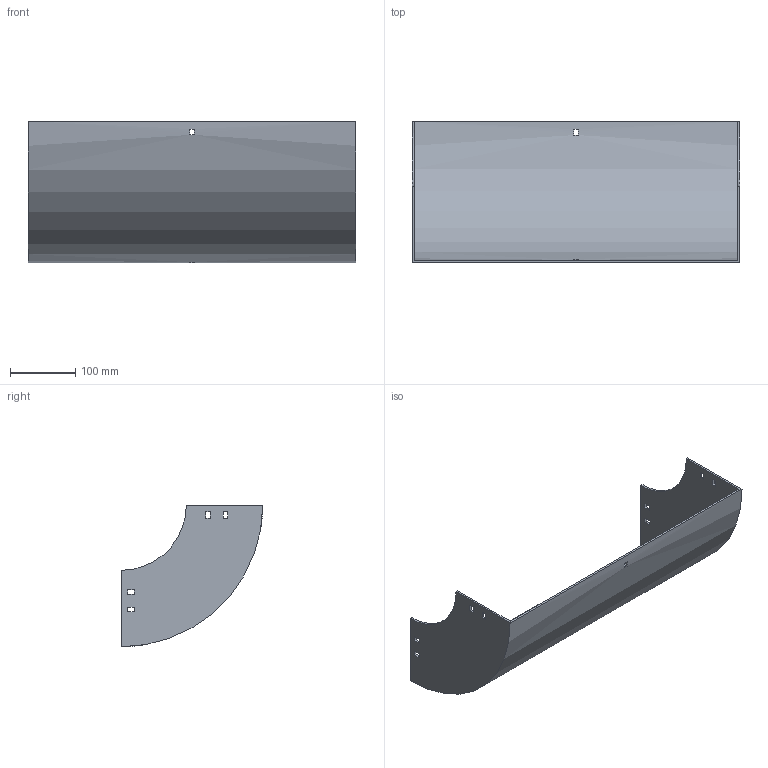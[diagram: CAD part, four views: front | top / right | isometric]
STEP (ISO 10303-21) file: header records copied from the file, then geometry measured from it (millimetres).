
FILE_DESCRIPTION (( 'STEP AP214' ), '1' );
FILE_NAME ('30B1J500.step', '2025-02-21T09:49:13', ( '' ), ( '' ), 'SwSTEP 2.0', 'SolidWorks 2023', '' );
FILE_SCHEMA (( 'AUTOMOTIVE_DESIGN' ));
Length unit declared in the file: millimetre
Products named in the file (1): 30B1J500
Bounding box: 504 x 217.5 x 217.5 mm (x, y, z)
Volume: 792246.4 mm3; surface area: 460124.7 mm2
Topology: 1 solids, 1 shells, 50 faces, 144 edges, 96 vertices
Faces by surface type: plane 46, cylinder 4
Entity records: 1687 total; most frequent: CARTESIAN_POINT 291, ORIENTED_EDGE 288, DIRECTION 262, EDGE_CURVE 144, VECTOR 128, LINE 128, VERTEX_POINT 96, EDGE_LOOP 70
